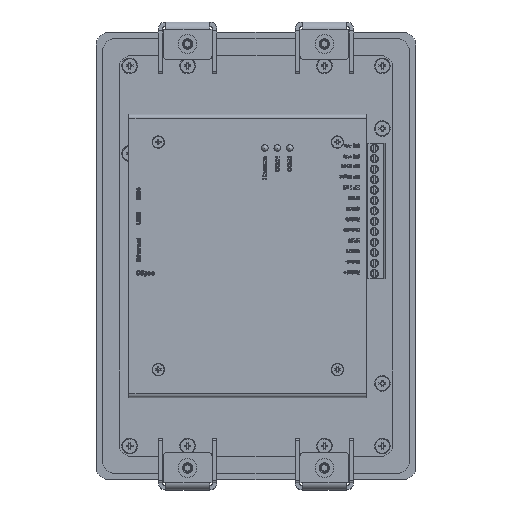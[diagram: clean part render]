
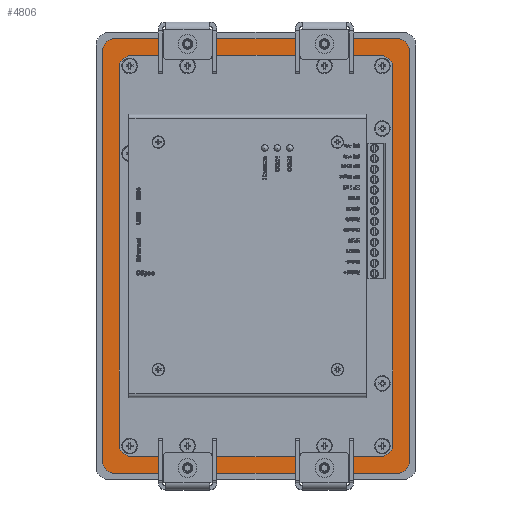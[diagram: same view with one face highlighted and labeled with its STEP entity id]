
A CAD part, top view. The second image highlights one B-rep face of the part: STEP entity #4806.
In plain terms, the highlighted planar face has unit normal (0, 0, 1).
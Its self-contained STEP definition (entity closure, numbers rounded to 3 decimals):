
#4806=ADVANCED_FACE('',(#53577,#53579),#53581,.F.);
#53577=FACE_BOUND('',#53578,.T.);
#53578=EDGE_LOOP('',(#92098,#92099,#92100,#92101,#92102,#92103,#92104,#92105));
#53579=FACE_BOUND('',#53580,.T.);
#53580=EDGE_LOOP('',(#92106,#92107,#92108,#92109,#92110,#92111,#92112,#92113));
#53581=PLANE('',#53582);
#53582=AXIS2_PLACEMENT_3D('',#53583,#53584,#53585);
#53583=CARTESIAN_POINT('',(-54.151,-58.174,-70.829));
#53584=DIRECTION('',(0.,0.,-1.));
#53585=DIRECTION('',(0.,1.,0.));
#92098=ORIENTED_EDGE('',*,*,#127705,.F.);
#92099=ORIENTED_EDGE('',*,*,#127706,.F.);
#92100=ORIENTED_EDGE('',*,*,#127707,.F.);
#92101=ORIENTED_EDGE('',*,*,#127708,.F.);
#92102=ORIENTED_EDGE('',*,*,#127709,.F.);
#92103=ORIENTED_EDGE('',*,*,#127710,.F.);
#92104=ORIENTED_EDGE('',*,*,#127711,.F.);
#92105=ORIENTED_EDGE('',*,*,#127712,.F.);
#92106=ORIENTED_EDGE('',*,*,#127247,.T.);
#92107=ORIENTED_EDGE('',*,*,#127245,.T.);
#92108=ORIENTED_EDGE('',*,*,#127243,.T.);
#92109=ORIENTED_EDGE('',*,*,#127241,.T.);
#92110=ORIENTED_EDGE('',*,*,#127223,.T.);
#92111=ORIENTED_EDGE('',*,*,#127221,.T.);
#92112=ORIENTED_EDGE('',*,*,#127219,.T.);
#92113=ORIENTED_EDGE('',*,*,#127216,.T.);
#127216=EDGE_CURVE('',#143239,#143240,#143241,.F.);
#127219=EDGE_CURVE('',#143244,#143239,#143245,.F.);
#127221=EDGE_CURVE('',#143247,#143244,#143248,.F.);
#127223=EDGE_CURVE('',#143250,#143247,#143251,.F.);
#127241=EDGE_CURVE('',#143285,#143250,#143286,.F.);
#127243=EDGE_CURVE('',#143288,#143285,#143289,.F.);
#127245=EDGE_CURVE('',#143291,#143288,#143292,.F.);
#127247=EDGE_CURVE('',#143240,#143291,#143294,.F.);
#127705=EDGE_CURVE('',#144060,#144061,#144062,.T.);
#127706=EDGE_CURVE('',#144063,#144060,#144064,.T.);
#127707=EDGE_CURVE('',#144065,#144063,#144066,.T.);
#127708=EDGE_CURVE('',#144067,#144065,#144068,.T.);
#127709=EDGE_CURVE('',#144069,#144067,#144070,.T.);
#127710=EDGE_CURVE('',#144071,#144069,#144072,.T.);
#127711=EDGE_CURVE('',#144073,#144071,#144074,.T.);
#127712=EDGE_CURVE('',#144061,#144073,#144075,.T.);
#143239=VERTEX_POINT('',#171606);
#143240=VERTEX_POINT('',#171607);
#143241=CIRCLE('',#171608,6.);
#143244=VERTEX_POINT('',#171618);
#143245=LINE('',#171619,#171620);
#143247=VERTEX_POINT('',#171625);
#143248=CIRCLE('',#171626,6.);
#143250=VERTEX_POINT('',#171633);
#143251=LINE('',#171634,#171635);
#143285=VERTEX_POINT('',#171704);
#143286=CIRCLE('',#171705,6.);
#143288=VERTEX_POINT('',#171712);
#143289=LINE('',#171713,#171714);
#143291=VERTEX_POINT('',#171719);
#143292=CIRCLE('',#171720,6.);
#143294=LINE('',#171727,#171728);
#144060=VERTEX_POINT('',#174652);
#144061=VERTEX_POINT('',#174653);
#144062=LINE('',#174654,#174655);
#144063=VERTEX_POINT('',#174657);
#144064=CIRCLE('',#174658,6.);
#144065=VERTEX_POINT('',#174662);
#144066=LINE('',#174663,#174664);
#144067=VERTEX_POINT('',#174666);
#144068=CIRCLE('',#174667,6.);
#144069=VERTEX_POINT('',#174671);
#144070=LINE('',#174672,#174673);
#144071=VERTEX_POINT('',#174675);
#144072=CIRCLE('',#174676,6.);
#144073=VERTEX_POINT('',#174680);
#144074=LINE('',#174681,#174682);
#144075=CIRCLE('',#174684,6.);
#171606=CARTESIAN_POINT('',(11.349,-148.174,-70.829));
#171607=CARTESIAN_POINT('',(5.349,-154.174,-70.829));
#171608=AXIS2_PLACEMENT_3D('',#171609,#171610,#171611);
#171609=CARTESIAN_POINT('',(5.349,-148.174,-70.829));
#171610=DIRECTION('',(0.,0.,1.));
#171611=DIRECTION('',(0.,-1.,0.));
#171618=CARTESIAN_POINT('',(11.349,31.826,-70.829));
#171619=CARTESIAN_POINT('',(11.349,-148.174,-70.829));
#171620=VECTOR('',#171621,1.);
#171621=DIRECTION('',(0.,1.,0.));
#171625=CARTESIAN_POINT('',(5.349,37.826,-70.829));
#171626=AXIS2_PLACEMENT_3D('',#171627,#171628,#171629);
#171627=CARTESIAN_POINT('',(5.349,31.826,-70.829));
#171628=DIRECTION('',(0.,0.,1.));
#171629=DIRECTION('',(1.,0.,0.));
#171633=CARTESIAN_POINT('',(-113.651,37.826,-70.829));
#171634=CARTESIAN_POINT('',(5.349,37.826,-70.829));
#171635=VECTOR('',#171636,1.);
#171636=DIRECTION('',(-1.,0.,0.));
#171704=CARTESIAN_POINT('',(-119.651,31.826,-70.829));
#171705=AXIS2_PLACEMENT_3D('',#171706,#171707,#171708);
#171706=CARTESIAN_POINT('',(-113.651,31.826,-70.829));
#171707=DIRECTION('',(0.,0.,1.));
#171708=DIRECTION('',(0.,1.,0.));
#171712=CARTESIAN_POINT('',(-119.651,-148.174,-70.829));
#171713=CARTESIAN_POINT('',(-119.651,31.826,-70.829));
#171714=VECTOR('',#171715,1.);
#171715=DIRECTION('',(0.,-1.,0.));
#171719=CARTESIAN_POINT('',(-113.651,-154.174,-70.829));
#171720=AXIS2_PLACEMENT_3D('',#171721,#171722,#171723);
#171721=CARTESIAN_POINT('',(-113.651,-148.174,-70.829));
#171722=DIRECTION('',(0.,0.,1.));
#171723=DIRECTION('',(-1.,0.,0.));
#171727=CARTESIAN_POINT('',(-113.651,-154.174,-70.829));
#171728=VECTOR('',#171729,1.);
#171729=DIRECTION('',(1.,0.,0.));
#174652=CARTESIAN_POINT('',(-127.651,-156.174,-70.829));
#174653=CARTESIAN_POINT('',(-127.651,39.826,-70.829));
#174654=CARTESIAN_POINT('',(-127.651,-156.174,-70.829));
#174655=VECTOR('',#174656,1.);
#174656=DIRECTION('',(0.,1.,0.));
#174657=CARTESIAN_POINT('',(-121.651,-162.174,-70.829));
#174658=AXIS2_PLACEMENT_3D('',#174659,#174660,#174661);
#174659=CARTESIAN_POINT('',(-121.651,-156.174,-70.829));
#174660=DIRECTION('',(0.,0.,-1.));
#174661=DIRECTION('',(0.,-1.,0.));
#174662=CARTESIAN_POINT('',(13.349,-162.174,-70.829));
#174663=CARTESIAN_POINT('',(13.349,-162.174,-70.829));
#174664=VECTOR('',#174665,1.);
#174665=DIRECTION('',(-1.,0.,0.));
#174666=CARTESIAN_POINT('',(19.349,-156.174,-70.829));
#174667=AXIS2_PLACEMENT_3D('',#174668,#174669,#174670);
#174668=CARTESIAN_POINT('',(13.349,-156.174,-70.829));
#174669=DIRECTION('',(0.,0.,-1.));
#174670=DIRECTION('',(1.,0.,0.));
#174671=CARTESIAN_POINT('',(19.349,39.826,-70.829));
#174672=CARTESIAN_POINT('',(19.349,39.826,-70.829));
#174673=VECTOR('',#174674,1.);
#174674=DIRECTION('',(0.,-1.,0.));
#174675=CARTESIAN_POINT('',(13.349,45.826,-70.829));
#174676=AXIS2_PLACEMENT_3D('',#174677,#174678,#174679);
#174677=CARTESIAN_POINT('',(13.349,39.826,-70.829));
#174678=DIRECTION('',(0.,0.,-1.));
#174679=DIRECTION('',(0.,1.,0.));
#174680=CARTESIAN_POINT('',(-121.651,45.826,-70.829));
#174681=CARTESIAN_POINT('',(-121.651,45.826,-70.829));
#174682=VECTOR('',#174683,1.);
#174683=DIRECTION('',(1.,0.,0.));
#174684=AXIS2_PLACEMENT_3D('',#174685,#174686,#174687);
#174685=CARTESIAN_POINT('',(-121.651,39.826,-70.829));
#174686=DIRECTION('',(0.,0.,-1.));
#174687=DIRECTION('',(-1.,0.,0.));
